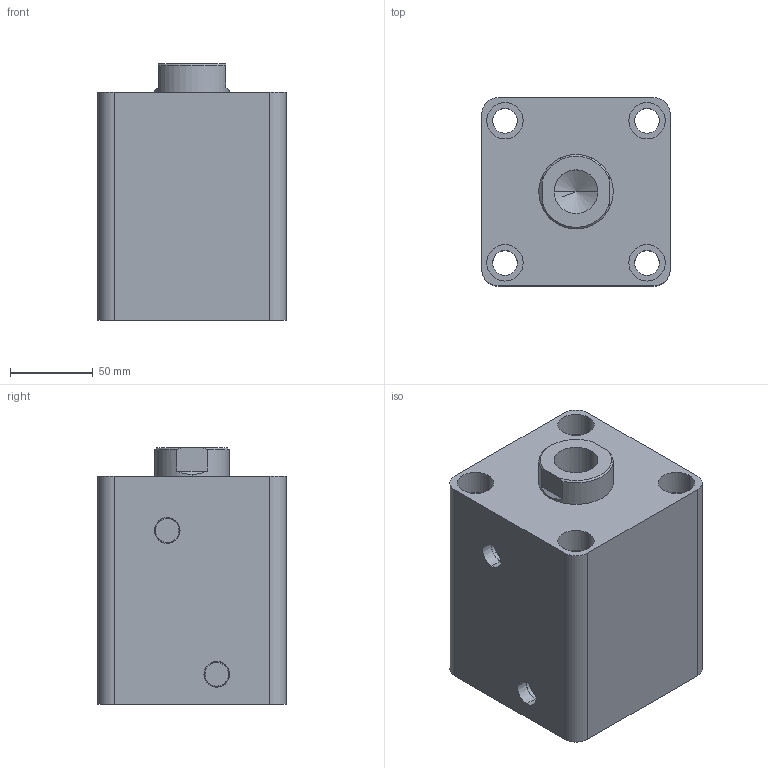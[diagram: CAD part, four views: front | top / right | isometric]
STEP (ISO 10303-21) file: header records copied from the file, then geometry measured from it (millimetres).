
FILE_DESCRIPTION (( 'STEP AP203' ), '1' );
FILE_NAME ('HTB-SD80-60N.STEP', '2019-10-07T08:31:22', ( '微软用户' ), ( '微软中国' ), 'SwSTEP 2.0', 'SolidWorks 2012', '' );
FILE_SCHEMA (( 'CONFIG_CONTROL_DESIGN' ));
Length unit declared in the file: millimetre
Products named in the file (3): HTB-SD80-60N; HTB-SD80-60N活塞杆; HTB-SD80-60掛极
Assembly tree (2 placements, depth 2):
  HTB-SD80-60N
    HTB-SD80-60掛极
    HTB-SD80-60N活塞杆
Bounding box: 114 x 114 x 155 mm (x, y, z)
Volume: 1455242.6 mm3; surface area: 184743.5 mm2
Topology: 2 solids, 2 shells, 83 faces, 184 edges, 119 vertices
Faces by surface type: cylinder 42, plane 27, cone 8, torus 6
Entity records: 2655 total; most frequent: DIRECTION 456, CARTESIAN_POINT 417, ORIENTED_EDGE 364, AXIS2_PLACEMENT_3D 194, EDGE_CURVE 182, VERTEX_POINT 119, EDGE_LOOP 107, CIRCLE 106
